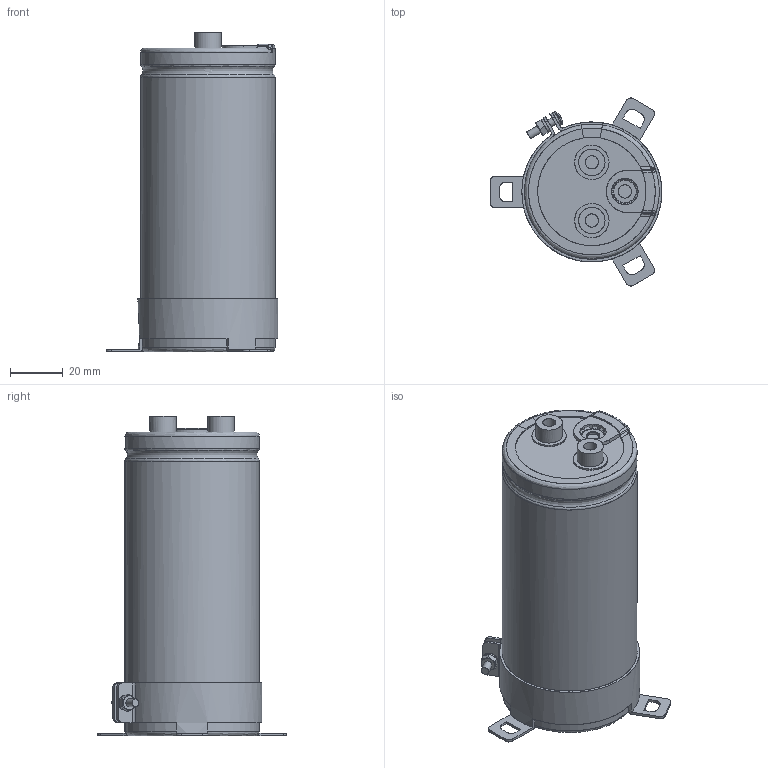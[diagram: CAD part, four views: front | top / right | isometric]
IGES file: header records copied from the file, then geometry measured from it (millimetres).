
Start section: JAMA-IS VERSION  1.0
Bounding box: 65 x 71.22 x 121 mm (x, y, z)
Surface area: 69573.6 mm2 (no closed solid volume)
Topology: 0 solids, 0 shells, 298 faces, 4625 edges, 4595 vertices
Faces by surface type: bspline 298
